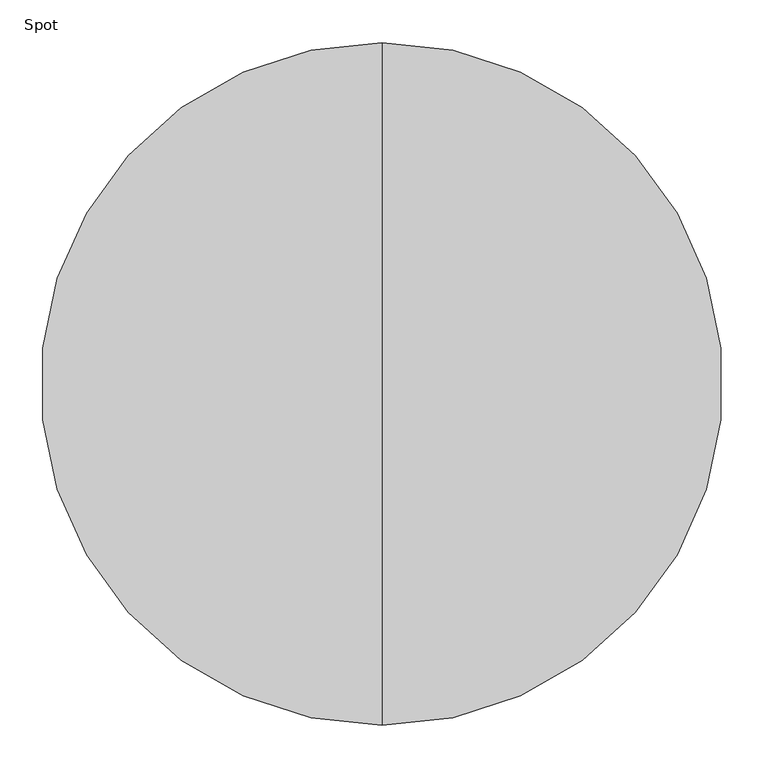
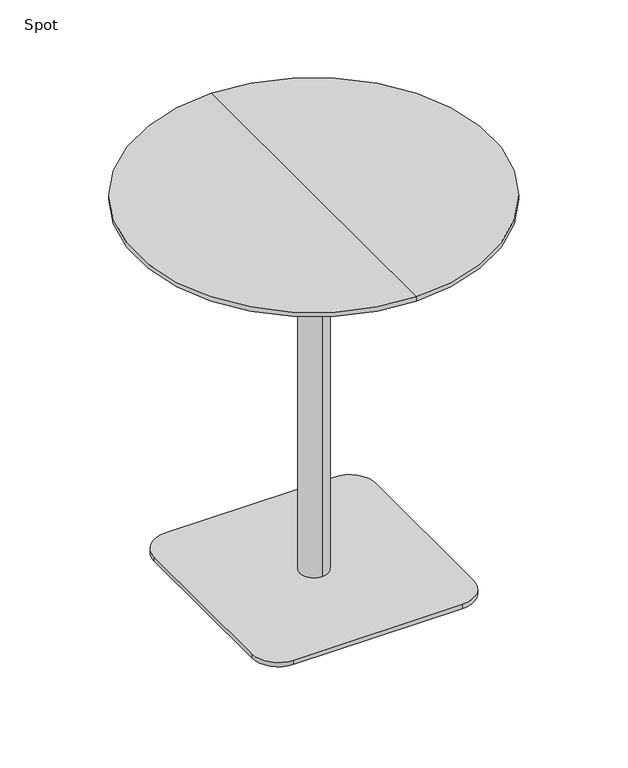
"""IFC4 building model written with IfcOpenShell, lengths in millimetres: furniture geometry, Spot : Bø80x90s."""

from ifc_helpers import new_model, si_unit, point, frame, frame_2d, origin, origin_with_axes, place, context, project, spatial, polyline, circle_curve, trimmed, segment, composite_curve, outline, extrude, source, transform, mapped, element, save
from ifc_brep_helpers import plane_surface, cylinder_surface, revolved_surface, advanced_brep


def spot_c4b41224(model_context):
    return source(origin(), model_context, "Body", "SolidModel", [
        advanced_brep(
        [(0.0, 400.0, 900.0), (0.0, -400.0, 900.0), (0.0, 0.0, 900.0), (0.0, 400.0, 890.25), (0.0, -400.0, 890.25), (0.0, 354.2823776, 878.0), (0.0, -354.2823776, 878.0), (0.0, 0.0, 878.0)],
        [
            (0, 1, circle_curve(frame((0.0, 0.0, 900.0), z_axis=(0.0, 0.0, 1.0), x_axis=(0.0, -1.0, 0.0)), 400.0)),
            (1, 2),
            (2, 0),
            (1, 0, circle_curve(frame((0.0, 0.0, 900.0), z_axis=(0.0, 0.0, 1.0), x_axis=(0.0, -1.0, 0.0)), 400.0)),
            (3, 4, circle_curve(frame((0.0, 0.0, 890.25), z_axis=(0.0, 0.0, 1.0), x_axis=(0.0, -1.0, 0.0)), 400.0)),
            (4, 1),
            (0, 3),
            (4, 3, circle_curve(frame((0.0, 0.0, 890.25), z_axis=(0.0, 0.0, 1.0), x_axis=(0.0, -1.0, 0.0)), 400.0)),
            (5, 6, circle_curve(frame((0.0, 0.0, 878.0), z_axis=(0.0, 0.0, 1.0), x_axis=(0.0, -1.0, 0.0)), 354.2823776)),
            (6, 4),
            (3, 5),
            (6, 5, circle_curve(frame((0.0, 0.0, 878.0), z_axis=(0.0, 0.0, 1.0), x_axis=(0.0, -1.0, 0.0)), 354.2823776)),
            (7, 6),
            (5, 7),
        ],
        [
            plane_surface(frame((0.0, 0.0, 900.0), z_axis=(0.0, 0.0, 1.0), x_axis=(0.0, -1.0, 0.0))),
            cylinder_surface(frame((0.0, 0.0, 980.0), z_axis=(0.0, 0.0, -1.0), x_axis=(0.0, -1.0, 0.0)), 400.0),
            revolved_surface(polyline([(0.0, -400.0, 890.25), (0.0, -354.2823776, 878.0)]), (0.0, 0.0, 980.0), (0.0, 0.0, -1.0)),
            plane_surface(frame((0.0, 0.0, 878.0), z_axis=(0.0, 0.0, -1.0), x_axis=(0.0, -1.0, 0.0))),
        ],
        [
            (0, [[1, 2, 3]]),
            (0, [[4, -3, -2]]),
            (1, [[5, 6, -1, 7]]),
            (1, [[8, -7, -4, -6]]),
            (2, [[9, 10, -5, 11]]),
            (2, [[12, -11, -8, -10]]),
            (3, [[13, -9, 14]]),
            (3, [[-14, -12, -13]]),
        ],
    ),
        extrude(outline(composite_curve([segment(trimmed(circle_curve(frame_2d((190.0, 190.0)), 60.0), [point((190.0, 250.0))], [point((250.0, 190.0))], False, "CARTESIAN"), True, "CONTINUOUS"), segment(polyline([(250.0, 190.0), (250.0, -190.0)]), True, "CONTINUOUS"), segment(trimmed(circle_curve(frame_2d((190.0, -190.0)), 60.0), [point((250.0, -190.0))], [point((190.0, -250.0))], False, "CARTESIAN"), True, "CONTINUOUS"), segment(polyline([(190.0, -250.0), (-190.0, -250.0)]), True, "CONTINUOUS"), segment(trimmed(circle_curve(frame_2d((-190.0, -190.0)), 60.0), [point((-190.0, -250.0))], [point((-250.0, -190.0))], False, "CARTESIAN"), True, "CONTINUOUS"), segment(polyline([(-250.0, -190.0), (-250.0, 190.0)]), True, "CONTINUOUS"), segment(trimmed(circle_curve(frame_2d((-190.0, 190.0)), 60.0), [point((-250.0, 190.0))], [point((-190.0, 250.0))], False, "CARTESIAN"), True, "CONTINUOUS"), segment(polyline([(-190.0, 250.0), (190.0, 250.0)]), True, "CONTINUOUS")], self_intersect=False)), origin_with_axes(), (0.0, 0.0, 1.0), 10.0),
        advanced_brep(
        [(0.0, 32.0, 10.0), (0.0, -32.0, 10.0), (0.0, -32.0, 847.406916), (0.0, 32.0, 847.406916), (0.0, 0.0, 10.0), (0.0, 150.0, 878.0), (0.0, -150.0, 878.0), (0.0, 0.0, 878.0), (0.0, 150.0, 866.7213673), (0.0, -150.0, 866.7213673)],
        [
            (0, 1, circle_curve(frame((0.0, 0.0, 10.0), z_axis=(0.0, 0.0, 1.0), x_axis=(0.0, -1.0, 0.0)), 32.0)),
            (1, 2),
            (2, 3, circle_curve(frame((0.0, 0.0, 847.406916), z_axis=(0.0, 0.0, -1.0), x_axis=(0.0, -1.0, 0.0)), 32.0)),
            (3, 0),
            (1, 0, circle_curve(frame((0.0, 0.0, 10.0), z_axis=(0.0, 0.0, 1.0), x_axis=(0.0, -1.0, 0.0)), 32.0)),
            (3, 2, circle_curve(frame((0.0, 0.0, 847.406916), z_axis=(0.0, 0.0, -1.0), x_axis=(0.0, -1.0, 0.0)), 32.0)),
            (4, 1),
            (0, 4),
            (5, 6, circle_curve(frame((0.0, 0.0, 878.0), z_axis=(0.0, 0.0, 1.0), x_axis=(0.0, -1.0, 0.0)), 150.0)),
            (6, 7),
            (7, 5),
            (6, 5, circle_curve(frame((0.0, 0.0, 878.0), z_axis=(0.0, 0.0, 1.0), x_axis=(0.0, -1.0, 0.0)), 150.0)),
            (8, 9, circle_curve(frame((0.0, 0.0, 866.7213673), z_axis=(0.0, 0.0, 1.0), x_axis=(0.0, -1.0, 0.0)), 150.0)),
            (9, 6),
            (5, 8),
            (9, 8, circle_curve(frame((0.0, 0.0, 866.7213673), z_axis=(0.0, 0.0, 1.0), x_axis=(0.0, -1.0, 0.0)), 150.0)),
            (2, 9),
            (8, 3),
        ],
        [
            cylinder_surface(frame((0.0, 0.0, 1240.0), z_axis=(0.0, 0.0, -1.0), x_axis=(0.0, -1.0, 0.0)), 32.0),
            plane_surface(frame((0.0, 0.0, 10.0), z_axis=(0.0, 0.0, -1.0), x_axis=(0.0, -1.0, 0.0))),
            plane_surface(frame((0.0, 0.0, 878.0), z_axis=(0.0, 0.0, 1.0), x_axis=(0.0, -1.0, 0.0))),
            cylinder_surface(frame((0.0, 0.0, 1240.0), z_axis=(0.0, 0.0, -1.0), x_axis=(0.0, -1.0, 0.0)), 150.0),
            revolved_surface(polyline([(0.0, -150.0, 866.7213673), (0.0, -32.0, 847.406916)]), (0.0, 0.0, 1240.0), (0.0, 0.0, -1.0)),
        ],
        [
            (0, [[1, 2, 3, 4]]),
            (0, [[5, -4, 6, -2]]),
            (1, [[7, -1, 8]]),
            (1, [[-8, -5, -7]]),
            (2, [[9, 10, 11]]),
            (2, [[12, -11, -10]]),
            (3, [[13, 14, -9, 15]]),
            (3, [[16, -15, -12, -14]]),
            (4, [[-3, 17, -13, 18]]),
            (4, [[-6, -18, -16, -17]]),
        ],
    ),
        extrude(outline(polyline([(0.0, 0.0), (-20.0, 0.0), (-20.0, 20.0), (0.0, 20.0), (0.0, 0.0)])), origin_with_axes(), (0.0, 0.0, 1.0), 10.0),
    ])


if __name__ == "__main__":
    model = new_model("IFC4")
    model_context = context("Model", 3, world=origin())
    ifc_project = project(units=[si_unit("LENGTHUNIT", "METRE", prefix="MILLI")], contexts=[model_context])
    site = spatial("IfcSite", under=ifc_project)
    building = spatial("IfcBuilding", under=site)
    placement = place(None, origin())
    spot_shape = spot_c4b41224(model_context)
    element("IfcFurniture", 1, ObjectType="Spot : Bø80x90s", at=placement, inside=building, context=model_context, shape_type="MappedRepresentation", body=[
        mapped(spot_shape, transform((0.0, 0.0, 0.0), x_axis=(1.0, 0.0, 0.0), y_axis=(0.0, 1.0, 0.0), z_axis=(0.0, 0.0, 1.0))),
    ])
    save(model, "model.ifc")
